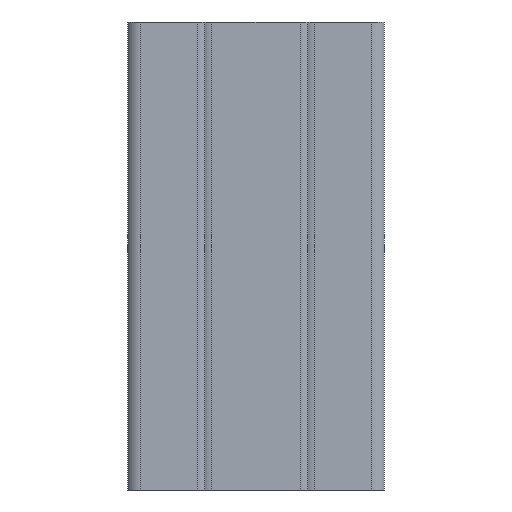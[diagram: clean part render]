
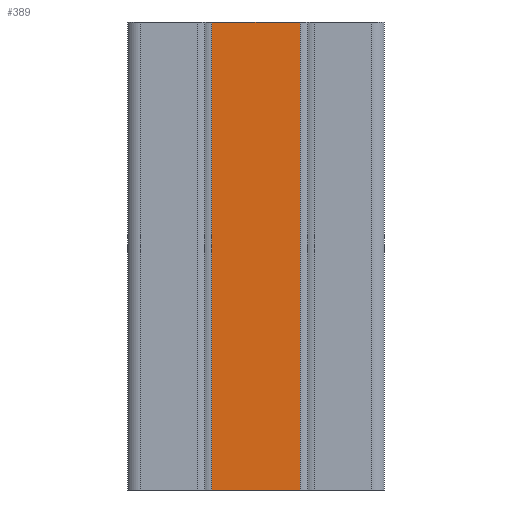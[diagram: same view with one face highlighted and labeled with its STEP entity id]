
A CAD part, left-side view. The second image highlights one B-rep face of the part: STEP entity #389.
In plain terms, the highlighted planar face has unit normal (-1, 0, 0).
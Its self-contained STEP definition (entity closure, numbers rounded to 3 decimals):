
#23 = VECTOR ( 'NONE', #1341, 1000. ) ;
#91 = VERTEX_POINT ( 'NONE', #566 ) ;
#152 = DIRECTION ( 'NONE',  ( 1., 0., 0. ) ) ;
#156 = VERTEX_POINT ( 'NONE', #1191 ) ;
#185 = ORIENTED_EDGE ( 'NONE', *, *, #1204, .F. ) ;
#225 = FACE_OUTER_BOUND ( 'NONE', #982, .T. ) ;
#301 = CARTESIAN_POINT ( 'NONE',  ( -12.5, -9.5, 100. ) ) ;
#316 = PLANE ( 'NONE',  #652 ) ;
#389 = ADVANCED_FACE ( 'NONE', ( #225 ), #316, .F. ) ;
#404 = VECTOR ( 'NONE', #606, 1000. ) ;
#523 = DIRECTION ( 'NONE',  ( 0., 0., -1. ) ) ;
#566 = CARTESIAN_POINT ( 'NONE',  ( -12.5, 9.5, 0. ) ) ;
#601 = LINE ( 'NONE', #1107, #951 ) ;
#606 = DIRECTION ( 'NONE',  ( 0., 0., -1. ) ) ;
#652 = AXIS2_PLACEMENT_3D ( 'NONE', #301, #152, #1357 ) ;
#753 = ORIENTED_EDGE ( 'NONE', *, *, #902, .F. ) ;
#822 = LINE ( 'NONE', #1056, #404 ) ;
#902 = EDGE_CURVE ( 'NONE', #1560, #1543, #822, .T. ) ;
#930 = EDGE_CURVE ( 'NONE', #91, #1543, #1851, .T. ) ;
#951 = VECTOR ( 'NONE', #1815, 1000. ) ;
#954 = ORIENTED_EDGE ( 'NONE', *, *, #930, .T. ) ;
#972 = EDGE_CURVE ( 'NONE', #156, #91, #1332, .T. ) ;
#982 = EDGE_LOOP ( 'NONE', ( #954, #753, #185, #1778 ) ) ;
#1056 = CARTESIAN_POINT ( 'NONE',  ( -12.5, -9.5, 100. ) ) ;
#1063 = CARTESIAN_POINT ( 'NONE',  ( -12.5, -9.5, 0. ) ) ;
#1105 = CARTESIAN_POINT ( 'NONE',  ( -12.5, 9.5, 100. ) ) ;
#1107 = CARTESIAN_POINT ( 'NONE',  ( -12.5, -9.5, 100. ) ) ;
#1191 = CARTESIAN_POINT ( 'NONE',  ( -12.5, 9.5, 100. ) ) ;
#1204 = EDGE_CURVE ( 'NONE', #156, #1560, #601, .T. ) ;
#1292 = CARTESIAN_POINT ( 'NONE',  ( -12.5, -9.5, 100. ) ) ;
#1303 = CARTESIAN_POINT ( 'NONE',  ( -12.5, -9.5, 0. ) ) ;
#1332 = LINE ( 'NONE', #1105, #1508 ) ;
#1341 = DIRECTION ( 'NONE',  ( 0., -1., 0. ) ) ;
#1357 = DIRECTION ( 'NONE',  ( 0., 1., 0. ) ) ;
#1508 = VECTOR ( 'NONE', #523, 1000. ) ;
#1543 = VERTEX_POINT ( 'NONE', #1303 ) ;
#1560 = VERTEX_POINT ( 'NONE', #1292 ) ;
#1778 = ORIENTED_EDGE ( 'NONE', *, *, #972, .T. ) ;
#1815 = DIRECTION ( 'NONE',  ( 0., -1., 0. ) ) ;
#1851 = LINE ( 'NONE', #1063, #23 ) ;
